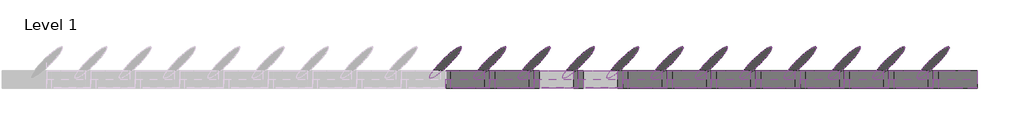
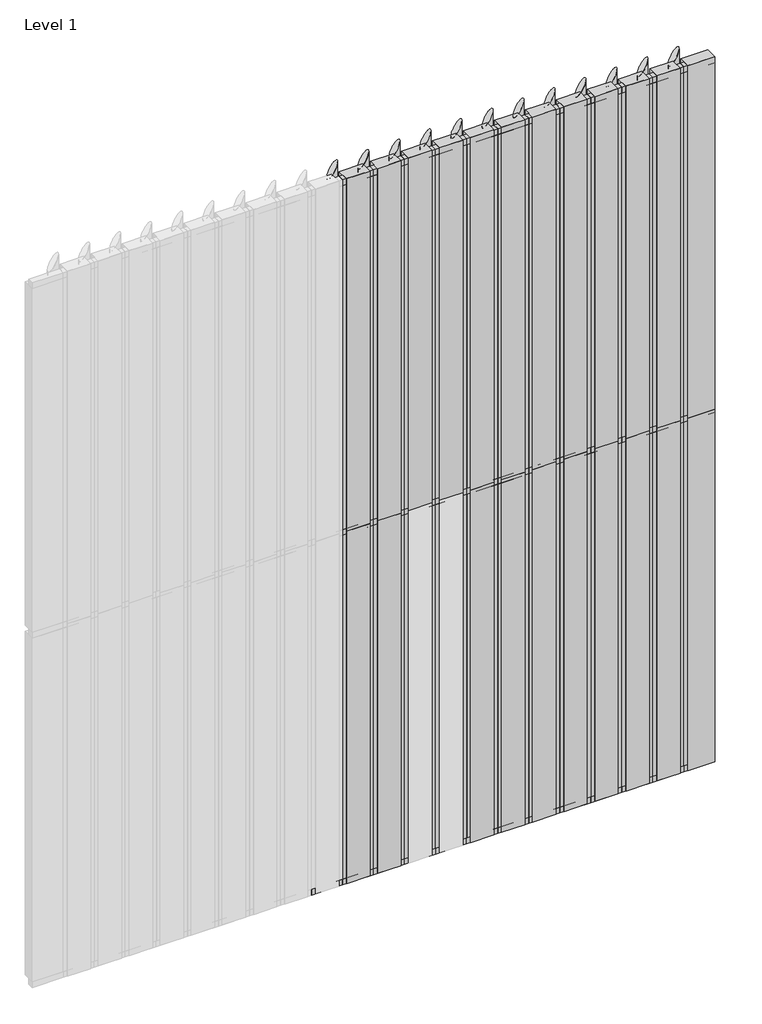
# One storey, part 2 of 2: 61 members, 46 plates.
"""IFC4 building model written with IfcOpenShell, lengths in millimetres."""

from ifc_helpers import new_model, si_unit, origin, place, context, project, spatial, transform, mapped, element, save
from components import rectangular_mullion_dafef153, rectangular_mullion_b779000f, rectangular_mullion_eeaea343, rectangular_mullion_552ac5bc, empty_system_panel_empty_c2e1ed41, empty_system_panel_empty_a27fa234, empty_system_panel_empty_93422e2e

model = new_model("IFC4")

# Units and contexts
model_context = context("Model", 3, world=origin())
ifc_project = project(units=[si_unit("LENGTHUNIT", "METRE", prefix="MILLI")], contexts=[model_context])

# Site, building, storey
site = spatial("IfcSite", under=ifc_project)
building = spatial("IfcBuilding", under=site)
storey = spatial("IfcBuildingStorey", under=building, Name="Level 1", Elevation=0.0)

# Members
placement = place(None, origin())
rectangular_mullion_shape = rectangular_mullion_dafef153(model_context)
element("IfcMember", 1, ObjectType="Rectangular Mullion : RSen_21_CWM_blade - 250 ellips - 45°_gen_duco projects", at=placement, inside=storey, context=model_context, shape_type="MappedRepresentation", body=[
    mapped(rectangular_mullion_shape, transform((5750.0, 3000.0, 0.0), x_axis=(-1.0, 0.0, 0.0), y_axis=(0.0, 1.0, 0.0), z_axis=(0.0, 0.0, -1.0))),
])
element("IfcMember", 2, ObjectType="Rectangular Mullion : RSen_21_CWM_blade - 250 ellips - 45°_gen_duco projects", at=placement, inside=storey, context=model_context, shape_type="MappedRepresentation", body=[
    mapped(rectangular_mullion_shape, transform((5500.0, 3000.0, 0.0), x_axis=(-1.0, 0.0, 0.0), y_axis=(0.0, 1.0, 0.0), z_axis=(0.0, 0.0, -1.0))),
])
element("IfcMember", 3, ObjectType="Rectangular Mullion : RSen_21_CWM_blade - 250 ellips - 45°_gen_duco projects", at=placement, inside=storey, context=model_context, shape_type="MappedRepresentation", body=[
    mapped(rectangular_mullion_shape, transform((5250.0, 3000.0, 0.0), x_axis=(-1.0, 0.0, 0.0), y_axis=(0.0, 1.0, 0.0), z_axis=(0.0, 0.0, -1.0))),
])
element("IfcMember", 4, ObjectType="Rectangular Mullion : RSen_21_CWM_blade - 250 ellips - 45°_gen_duco projects", at=placement, inside=storey, context=model_context, shape_type="MappedRepresentation", body=[
    mapped(rectangular_mullion_shape, transform((5000.0, 3000.0, 0.0), x_axis=(-1.0, 0.0, 0.0), y_axis=(0.0, 1.0, 0.0), z_axis=(0.0, 0.0, -1.0))),
])
element("IfcMember", 5, ObjectType="Rectangular Mullion : RSen_21_CWM_blade - 250 ellips - 45°_gen_duco projects", at=placement, inside=storey, context=model_context, shape_type="MappedRepresentation", body=[
    mapped(rectangular_mullion_shape, transform((4750.0, 3000.0, 0.0), x_axis=(-1.0, 0.0, 0.0), y_axis=(0.0, 1.0, 0.0), z_axis=(0.0, 0.0, -1.0))),
])
element("IfcMember", 6, ObjectType="Rectangular Mullion : RSen_21_CWM_blade - 250 ellips - 45°_gen_duco projects", at=placement, inside=storey, context=model_context, shape_type="MappedRepresentation", body=[
    mapped(rectangular_mullion_shape, transform((4500.0, 3000.0, 0.0), x_axis=(-1.0, 0.0, 0.0), y_axis=(0.0, 1.0, 0.0), z_axis=(0.0, 0.0, -1.0))),
])
element("IfcMember", 7, ObjectType="Rectangular Mullion : RSen_21_CWM_blade - 250 ellips - 45°_gen_duco projects", at=placement, inside=storey, context=model_context, shape_type="MappedRepresentation", body=[
    mapped(rectangular_mullion_shape, transform((4250.0, 3000.0, 0.0), x_axis=(-1.0, 0.0, 0.0), y_axis=(0.0, 1.0, 0.0), z_axis=(0.0, 0.0, -1.0))),
])
element("IfcMember", 8, ObjectType="Rectangular Mullion : RSen_21_CWM_blade - 250 ellips - 45°_gen_duco projects", at=placement, inside=storey, context=model_context, shape_type="MappedRepresentation", body=[
    mapped(rectangular_mullion_shape, transform((4000.0, 3000.0, 0.0), x_axis=(-1.0, 0.0, 0.0), y_axis=(0.0, 1.0, 0.0), z_axis=(0.0, 0.0, -1.0))),
])
element("IfcMember", 9, ObjectType="Rectangular Mullion : RSen_21_CWM_blade - 250 ellips - 45°_gen_duco projects", at=placement, inside=storey, context=model_context, shape_type="MappedRepresentation", body=[
    mapped(rectangular_mullion_shape, transform((3750.0, 3000.0, 0.0), x_axis=(-1.0, 0.0, 0.0), y_axis=(0.0, 1.0, 0.0), z_axis=(0.0, 0.0, -1.0))),
])
element("IfcMember", 10, ObjectType="Rectangular Mullion : RSen_21_CWM_blade - 250 ellips - 45°_gen_duco projects", at=placement, inside=storey, context=model_context, shape_type="MappedRepresentation", body=[
    mapped(rectangular_mullion_shape, transform((3500.0, 3000.0, 0.0), x_axis=(-1.0, 0.0, 0.0), y_axis=(0.0, 1.0, 0.0), z_axis=(0.0, 0.0, -1.0))),
])
element("IfcMember", 11, ObjectType="Rectangular Mullion : RSen_21_CWM_blade - 250 ellips - 45°_gen_duco projects", at=placement, inside=storey, context=model_context, shape_type="MappedRepresentation", body=[
    mapped(rectangular_mullion_shape, transform((3250.0, 3000.0, 0.0), x_axis=(-1.0, 0.0, 0.0), y_axis=(0.0, 1.0, 0.0), z_axis=(0.0, 0.0, -1.0))),
])
element("IfcMember", 12, ObjectType="Rectangular Mullion : RSen_21_CWM_blade - 250 ellips - 45°_gen_duco projects", at=placement, inside=storey, context=model_context, shape_type="MappedRepresentation", body=[
    mapped(rectangular_mullion_shape, transform((3000.0, 3000.0, 0.0), x_axis=(-1.0, 0.0, 0.0), y_axis=(0.0, 1.0, 0.0), z_axis=(0.0, 0.0, -1.0))),
])
element("IfcMember", 13, ObjectType="Rectangular Mullion : RSen_21_CWM_blade - 250 ellips - 45°_gen_duco projects", at=placement, inside=storey, context=model_context, shape_type="MappedRepresentation", body=[
    mapped(rectangular_mullion_shape, transform((5750.0, 3000.0, 3000.0), x_axis=(-1.0, 0.0, 0.0), y_axis=(0.0, 1.0, 0.0), z_axis=(0.0, 0.0, -1.0))),
])
element("IfcMember", 14, ObjectType="Rectangular Mullion : RSen_21_CWM_blade - 250 ellips - 45°_gen_duco projects", at=placement, inside=storey, context=model_context, shape_type="MappedRepresentation", body=[
    mapped(rectangular_mullion_shape, transform((5500.0, 3000.0, 3000.0), x_axis=(-1.0, 0.0, 0.0), y_axis=(0.0, 1.0, 0.0), z_axis=(0.0, 0.0, -1.0))),
])
element("IfcMember", 15, ObjectType="Rectangular Mullion : RSen_21_CWM_blade - 250 ellips - 45°_gen_duco projects", at=placement, inside=storey, context=model_context, shape_type="MappedRepresentation", body=[
    mapped(rectangular_mullion_shape, transform((5250.0, 3000.0, 3000.0), x_axis=(-1.0, 0.0, 0.0), y_axis=(0.0, 1.0, 0.0), z_axis=(0.0, 0.0, -1.0))),
])
element("IfcMember", 16, ObjectType="Rectangular Mullion : RSen_21_CWM_blade - 250 ellips - 45°_gen_duco projects", at=placement, inside=storey, context=model_context, shape_type="MappedRepresentation", body=[
    mapped(rectangular_mullion_shape, transform((5000.0, 3000.0, 3000.0), x_axis=(-1.0, 0.0, 0.0), y_axis=(0.0, 1.0, 0.0), z_axis=(0.0, 0.0, -1.0))),
])
element("IfcMember", 17, ObjectType="Rectangular Mullion : RSen_21_CWM_blade - 250 ellips - 45°_gen_duco projects", at=placement, inside=storey, context=model_context, shape_type="MappedRepresentation", body=[
    mapped(rectangular_mullion_shape, transform((4750.0, 3000.0, 3000.0), x_axis=(-1.0, 0.0, 0.0), y_axis=(0.0, 1.0, 0.0), z_axis=(0.0, 0.0, -1.0))),
])
element("IfcMember", 18, ObjectType="Rectangular Mullion : RSen_21_CWM_blade - 250 ellips - 45°_gen_duco projects", at=placement, inside=storey, context=model_context, shape_type="MappedRepresentation", body=[
    mapped(rectangular_mullion_shape, transform((4500.0, 3000.0, 3000.0), x_axis=(-1.0, 0.0, 0.0), y_axis=(0.0, 1.0, 0.0), z_axis=(0.0, 0.0, -1.0))),
])
element("IfcMember", 19, ObjectType="Rectangular Mullion : RSen_21_CWM_blade - 250 ellips - 45°_gen_duco projects", at=placement, inside=storey, context=model_context, shape_type="MappedRepresentation", body=[
    mapped(rectangular_mullion_shape, transform((4250.0, 3000.0, 3000.0), x_axis=(-1.0, 0.0, 0.0), y_axis=(0.0, 1.0, 0.0), z_axis=(0.0, 0.0, -1.0))),
])
element("IfcMember", 20, ObjectType="Rectangular Mullion : RSen_21_CWM_blade - 250 ellips - 45°_gen_duco projects", at=placement, inside=storey, context=model_context, shape_type="MappedRepresentation", body=[
    mapped(rectangular_mullion_shape, transform((4000.0, 3000.0, 3000.0), x_axis=(-1.0, 0.0, 0.0), y_axis=(0.0, 1.0, 0.0), z_axis=(0.0, 0.0, -1.0))),
])
element("IfcMember", 21, ObjectType="Rectangular Mullion : RSen_21_CWM_blade - 250 ellips - 45°_gen_duco projects", at=placement, inside=storey, context=model_context, shape_type="MappedRepresentation", body=[
    mapped(rectangular_mullion_shape, transform((3750.0, 3000.0, 3000.0), x_axis=(-1.0, 0.0, 0.0), y_axis=(0.0, 1.0, 0.0), z_axis=(0.0, 0.0, -1.0))),
])
element("IfcMember", 22, ObjectType="Rectangular Mullion : RSen_21_CWM_blade - 250 ellips - 45°_gen_duco projects", at=placement, inside=storey, context=model_context, shape_type="MappedRepresentation", body=[
    mapped(rectangular_mullion_shape, transform((3500.0, 3000.0, 3000.0), x_axis=(-1.0, 0.0, 0.0), y_axis=(0.0, 1.0, 0.0), z_axis=(0.0, 0.0, -1.0))),
])
element("IfcMember", 23, ObjectType="Rectangular Mullion : RSen_21_CWM_blade - 250 ellips - 45°_gen_duco projects", at=placement, inside=storey, context=model_context, shape_type="MappedRepresentation", body=[
    mapped(rectangular_mullion_shape, transform((3250.0, 3000.0, 3000.0), x_axis=(-1.0, 0.0, 0.0), y_axis=(0.0, 1.0, 0.0), z_axis=(0.0, 0.0, -1.0))),
])
element("IfcMember", 24, ObjectType="Rectangular Mullion : RSen_21_CWM_blade - 250 ellips - 45°_gen_duco projects", at=placement, inside=storey, context=model_context, shape_type="MappedRepresentation", body=[
    mapped(rectangular_mullion_shape, transform((3000.0, 3000.0, 3000.0), x_axis=(-1.0, 0.0, 0.0), y_axis=(0.0, 1.0, 0.0), z_axis=(0.0, 0.0, -1.0))),
])
rectangular_mullion_2_shape = rectangular_mullion_b779000f(model_context)
element("IfcMember", 25, ObjectType="Rectangular Mullion : RSen_21_CWM_support profile 50x50 - right_gen_duco projects", at=placement, inside=storey, context=model_context, shape_type="MappedRepresentation", body=[
    mapped(rectangular_mullion_2_shape, transform((6000.0, 3000.0, 0.0), x_axis=(0.0, 0.0, -1.0), y_axis=(0.0, 1.0, 0.0), z_axis=(1.0, 0.0, 0.0))),
])
rectangular_mullion_3_shape = rectangular_mullion_eeaea343(model_context)
element("IfcMember", 26, ObjectType="Rectangular Mullion : RSen_21_CWM_support profile 50x50 - left_gen_duco projects", at=placement, inside=storey, context=model_context, shape_type="MappedRepresentation", body=[
    mapped(rectangular_mullion_3_shape, transform((5750.0, 3000.0, 6000.0), x_axis=(0.0, 0.0, 1.0), y_axis=(0.0, 1.0, 0.0), z_axis=(-1.0, 0.0, 0.0))),
])
element("IfcMember", 27, ObjectType="Rectangular Mullion : RSen_21_CWM_support profile 50x50 - left_gen_duco projects", at=placement, inside=storey, context=model_context, shape_type="MappedRepresentation", body=[
    mapped(rectangular_mullion_3_shape, transform((5500.0, 3000.0, 6000.0), x_axis=(0.0, 0.0, 1.0), y_axis=(0.0, 1.0, 0.0), z_axis=(-1.0, 0.0, 0.0))),
])
element("IfcMember", 28, ObjectType="Rectangular Mullion : RSen_21_CWM_support profile 50x50 - left_gen_duco projects", at=placement, inside=storey, context=model_context, shape_type="MappedRepresentation", body=[
    mapped(rectangular_mullion_3_shape, transform((5250.0, 3000.0, 6000.0), x_axis=(0.0, 0.0, 1.0), y_axis=(0.0, 1.0, 0.0), z_axis=(-1.0, 0.0, 0.0))),
])
element("IfcMember", 29, ObjectType="Rectangular Mullion : RSen_21_CWM_support profile 50x50 - left_gen_duco projects", at=placement, inside=storey, context=model_context, shape_type="MappedRepresentation", body=[
    mapped(rectangular_mullion_3_shape, transform((5000.0, 3000.0, 6000.0), x_axis=(0.0, 0.0, 1.0), y_axis=(0.0, 1.0, 0.0), z_axis=(-1.0, 0.0, 0.0))),
])
element("IfcMember", 30, ObjectType="Rectangular Mullion : RSen_21_CWM_support profile 50x50 - left_gen_duco projects", at=placement, inside=storey, context=model_context, shape_type="MappedRepresentation", body=[
    mapped(rectangular_mullion_3_shape, transform((4750.0, 3000.0, 6000.0), x_axis=(0.0, 0.0, 1.0), y_axis=(0.0, 1.0, 0.0), z_axis=(-1.0, 0.0, 0.0))),
])
element("IfcMember", 31, ObjectType="Rectangular Mullion : RSen_21_CWM_support profile 50x50 - left_gen_duco projects", at=placement, inside=storey, context=model_context, shape_type="MappedRepresentation", body=[
    mapped(rectangular_mullion_3_shape, transform((4500.0, 3000.0, 6000.0), x_axis=(0.0, 0.0, 1.0), y_axis=(0.0, 1.0, 0.0), z_axis=(-1.0, 0.0, 0.0))),
])
element("IfcMember", 32, ObjectType="Rectangular Mullion : RSen_21_CWM_support profile 50x50 - left_gen_duco projects", at=placement, inside=storey, context=model_context, shape_type="MappedRepresentation", body=[
    mapped(rectangular_mullion_3_shape, transform((4250.0, 3000.0, 6000.0), x_axis=(0.0, 0.0, 1.0), y_axis=(0.0, 1.0, 0.0), z_axis=(-1.0, 0.0, 0.0))),
])
element("IfcMember", 33, ObjectType="Rectangular Mullion : RSen_21_CWM_support profile 50x50 - left_gen_duco projects", at=placement, inside=storey, context=model_context, shape_type="MappedRepresentation", body=[
    mapped(rectangular_mullion_3_shape, transform((4000.0, 3000.0, 6000.0), x_axis=(0.0, 0.0, 1.0), y_axis=(0.0, 1.0, 0.0), z_axis=(-1.0, 0.0, 0.0))),
])
element("IfcMember", 34, ObjectType="Rectangular Mullion : RSen_21_CWM_support profile 50x50 - left_gen_duco projects", at=placement, inside=storey, context=model_context, shape_type="MappedRepresentation", body=[
    mapped(rectangular_mullion_3_shape, transform((3750.0, 3000.0, 6000.0), x_axis=(0.0, 0.0, 1.0), y_axis=(0.0, 1.0, 0.0), z_axis=(-1.0, 0.0, 0.0))),
])
element("IfcMember", 35, ObjectType="Rectangular Mullion : RSen_21_CWM_support profile 50x50 - left_gen_duco projects", at=placement, inside=storey, context=model_context, shape_type="MappedRepresentation", body=[
    mapped(rectangular_mullion_3_shape, transform((3500.0, 3000.0, 6000.0), x_axis=(0.0, 0.0, 1.0), y_axis=(0.0, 1.0, 0.0), z_axis=(-1.0, 0.0, 0.0))),
])
element("IfcMember", 36, ObjectType="Rectangular Mullion : RSen_21_CWM_support profile 50x50 - left_gen_duco projects", at=placement, inside=storey, context=model_context, shape_type="MappedRepresentation", body=[
    mapped(rectangular_mullion_3_shape, transform((3250.0, 3000.0, 6000.0), x_axis=(0.0, 0.0, 1.0), y_axis=(0.0, 1.0, 0.0), z_axis=(-1.0, 0.0, 0.0))),
])
element("IfcMember", 37, ObjectType="Rectangular Mullion : RSen_21_CWM_support profile 50x50 - left_gen_duco projects", at=placement, inside=storey, context=model_context, shape_type="MappedRepresentation", body=[
    mapped(rectangular_mullion_3_shape, transform((3000.0, 3000.0, 6000.0), x_axis=(0.0, 0.0, 1.0), y_axis=(0.0, 1.0, 0.0), z_axis=(-1.0, 0.0, 0.0))),
])
element("IfcMember", 38, ObjectType="Rectangular Mullion : RSen_21_CWM_support profile 50x50 - right_gen_duco projects", at=placement, inside=storey, context=model_context, shape_type="MappedRepresentation", body=[
    mapped(rectangular_mullion_2_shape, transform((5750.0, 3000.0, 0.0), x_axis=(0.0, 0.0, -1.0), y_axis=(0.0, 1.0, 0.0), z_axis=(1.0, 0.0, 0.0))),
])
element("IfcMember", 39, ObjectType="Rectangular Mullion : RSen_21_CWM_support profile 50x50 - right_gen_duco projects", at=placement, inside=storey, context=model_context, shape_type="MappedRepresentation", body=[
    mapped(rectangular_mullion_2_shape, transform((5500.0, 3000.0, 0.0), x_axis=(0.0, 0.0, -1.0), y_axis=(0.0, 1.0, 0.0), z_axis=(1.0, 0.0, 0.0))),
])
element("IfcMember", 40, ObjectType="Rectangular Mullion : RSen_21_CWM_support profile 50x50 - right_gen_duco projects", at=placement, inside=storey, context=model_context, shape_type="MappedRepresentation", body=[
    mapped(rectangular_mullion_2_shape, transform((5250.0, 3000.0, 0.0), x_axis=(0.0, 0.0, -1.0), y_axis=(0.0, 1.0, 0.0), z_axis=(1.0, 0.0, 0.0))),
])
element("IfcMember", 41, ObjectType="Rectangular Mullion : RSen_21_CWM_support profile 50x50 - right_gen_duco projects", at=placement, inside=storey, context=model_context, shape_type="MappedRepresentation", body=[
    mapped(rectangular_mullion_2_shape, transform((5000.0, 3000.0, 0.0), x_axis=(0.0, 0.0, -1.0), y_axis=(0.0, 1.0, 0.0), z_axis=(1.0, 0.0, 0.0))),
])
element("IfcMember", 42, ObjectType="Rectangular Mullion : RSen_21_CWM_support profile 50x50 - right_gen_duco projects", at=placement, inside=storey, context=model_context, shape_type="MappedRepresentation", body=[
    mapped(rectangular_mullion_2_shape, transform((4750.0, 3000.0, 0.0), x_axis=(0.0, 0.0, -1.0), y_axis=(0.0, 1.0, 0.0), z_axis=(1.0, 0.0, 0.0))),
])
element("IfcMember", 43, ObjectType="Rectangular Mullion : RSen_21_CWM_support profile 50x50 - right_gen_duco projects", at=placement, inside=storey, context=model_context, shape_type="MappedRepresentation", body=[
    mapped(rectangular_mullion_2_shape, transform((4500.0, 3000.0, 0.0), x_axis=(0.0, 0.0, -1.0), y_axis=(0.0, 1.0, 0.0), z_axis=(1.0, 0.0, 0.0))),
])
element("IfcMember", 44, ObjectType="Rectangular Mullion : RSen_21_CWM_support profile 50x50 - right_gen_duco projects", at=placement, inside=storey, context=model_context, shape_type="MappedRepresentation", body=[
    mapped(rectangular_mullion_2_shape, transform((4250.0, 3000.0, 0.0), x_axis=(0.0, 0.0, -1.0), y_axis=(0.0, 1.0, 0.0), z_axis=(1.0, 0.0, 0.0))),
])
element("IfcMember", 45, ObjectType="Rectangular Mullion : RSen_21_CWM_support profile 50x50 - right_gen_duco projects", at=placement, inside=storey, context=model_context, shape_type="MappedRepresentation", body=[
    mapped(rectangular_mullion_2_shape, transform((4000.0, 3000.0, 0.0), x_axis=(0.0, 0.0, -1.0), y_axis=(0.0, 1.0, 0.0), z_axis=(1.0, 0.0, 0.0))),
])
element("IfcMember", 46, ObjectType="Rectangular Mullion : RSen_21_CWM_support profile 50x50 - right_gen_duco projects", at=placement, inside=storey, context=model_context, shape_type="MappedRepresentation", body=[
    mapped(rectangular_mullion_2_shape, transform((3750.0, 3000.0, 0.0), x_axis=(0.0, 0.0, -1.0), y_axis=(0.0, 1.0, 0.0), z_axis=(1.0, 0.0, 0.0))),
])
element("IfcMember", 47, ObjectType="Rectangular Mullion : RSen_21_CWM_support profile 50x50 - right_gen_duco projects", at=placement, inside=storey, context=model_context, shape_type="MappedRepresentation", body=[
    mapped(rectangular_mullion_2_shape, transform((3500.0, 3000.0, 0.0), x_axis=(0.0, 0.0, -1.0), y_axis=(0.0, 1.0, 0.0), z_axis=(1.0, 0.0, 0.0))),
])
element("IfcMember", 48, ObjectType="Rectangular Mullion : RSen_21_CWM_support profile 50x50 - right_gen_duco projects", at=placement, inside=storey, context=model_context, shape_type="MappedRepresentation", body=[
    mapped(rectangular_mullion_2_shape, transform((3250.0, 3000.0, 0.0), x_axis=(0.0, 0.0, -1.0), y_axis=(0.0, 1.0, 0.0), z_axis=(1.0, 0.0, 0.0))),
])
element("IfcMember", 49, ObjectType="Rectangular Mullion : RSen_21_CWM_support profile 50x50 - right_gen_duco projects", at=placement, inside=storey, context=model_context, shape_type="MappedRepresentation", body=[
    mapped(rectangular_mullion_2_shape, transform((3000.0, 3000.0, 0.0), x_axis=(0.0, 0.0, -1.0), y_axis=(0.0, 1.0, 0.0), z_axis=(1.0, 0.0, 0.0))),
])
rectangular_mullion_4_shape = rectangular_mullion_552ac5bc(model_context)
element("IfcMember", 50, ObjectType="Rectangular Mullion : RSen_21_CWM_support profile 50x50_gen_duco projects", at=placement, inside=storey, context=model_context, shape_type="MappedRepresentation", body=[
    mapped(rectangular_mullion_4_shape, transform((5750.0, 3000.0, 3000.0), x_axis=(0.0, 0.0, 1.0), y_axis=(0.0, 1.0, 0.0), z_axis=(-1.0, 0.0, 0.0))),
])
element("IfcMember", 51, ObjectType="Rectangular Mullion : RSen_21_CWM_support profile 50x50_gen_duco projects", at=placement, inside=storey, context=model_context, shape_type="MappedRepresentation", body=[
    mapped(rectangular_mullion_4_shape, transform((5500.0, 3000.0, 3000.0), x_axis=(0.0, 0.0, 1.0), y_axis=(0.0, 1.0, 0.0), z_axis=(-1.0, 0.0, 0.0))),
])
element("IfcMember", 52, ObjectType="Rectangular Mullion : RSen_21_CWM_support profile 50x50_gen_duco projects", at=placement, inside=storey, context=model_context, shape_type="MappedRepresentation", body=[
    mapped(rectangular_mullion_4_shape, transform((5250.0, 3000.0, 3000.0), x_axis=(0.0, 0.0, 1.0), y_axis=(0.0, 1.0, 0.0), z_axis=(-1.0, 0.0, 0.0))),
])
element("IfcMember", 53, ObjectType="Rectangular Mullion : RSen_21_CWM_support profile 50x50_gen_duco projects", at=placement, inside=storey, context=model_context, shape_type="MappedRepresentation", body=[
    mapped(rectangular_mullion_4_shape, transform((5000.0, 3000.0, 3000.0), x_axis=(0.0, 0.0, 1.0), y_axis=(0.0, 1.0, 0.0), z_axis=(-1.0, 0.0, 0.0))),
])
element("IfcMember", 54, ObjectType="Rectangular Mullion : RSen_21_CWM_support profile 50x50_gen_duco projects", at=placement, inside=storey, context=model_context, shape_type="MappedRepresentation", body=[
    mapped(rectangular_mullion_4_shape, transform((4750.0, 3000.0, 3000.0), x_axis=(0.0, 0.0, 1.0), y_axis=(0.0, 1.0, 0.0), z_axis=(-1.0, 0.0, 0.0))),
])
element("IfcMember", 55, ObjectType="Rectangular Mullion : RSen_21_CWM_support profile 50x50_gen_duco projects", at=placement, inside=storey, context=model_context, shape_type="MappedRepresentation", body=[
    mapped(rectangular_mullion_4_shape, transform((4500.0, 3000.0, 3000.0), x_axis=(0.0, 0.0, 1.0), y_axis=(0.0, 1.0, 0.0), z_axis=(-1.0, 0.0, 0.0))),
])
element("IfcMember", 56, ObjectType="Rectangular Mullion : RSen_21_CWM_support profile 50x50_gen_duco projects", at=placement, inside=storey, context=model_context, shape_type="MappedRepresentation", body=[
    mapped(rectangular_mullion_4_shape, transform((4250.0, 3000.0, 3000.0), x_axis=(0.0, 0.0, 1.0), y_axis=(0.0, 1.0, 0.0), z_axis=(-1.0, 0.0, 0.0))),
])
element("IfcMember", 57, ObjectType="Rectangular Mullion : RSen_21_CWM_support profile 50x50_gen_duco projects", at=placement, inside=storey, context=model_context, shape_type="MappedRepresentation", body=[
    mapped(rectangular_mullion_4_shape, transform((4000.0, 3000.0, 3000.0), x_axis=(0.0, 0.0, 1.0), y_axis=(0.0, 1.0, 0.0), z_axis=(-1.0, 0.0, 0.0))),
])
element("IfcMember", 58, ObjectType="Rectangular Mullion : RSen_21_CWM_support profile 50x50_gen_duco projects", at=placement, inside=storey, context=model_context, shape_type="MappedRepresentation", body=[
    mapped(rectangular_mullion_4_shape, transform((3750.0, 3000.0, 3000.0), x_axis=(0.0, 0.0, 1.0), y_axis=(0.0, 1.0, 0.0), z_axis=(-1.0, 0.0, 0.0))),
])
element("IfcMember", 59, ObjectType="Rectangular Mullion : RSen_21_CWM_support profile 50x50_gen_duco projects", at=placement, inside=storey, context=model_context, shape_type="MappedRepresentation", body=[
    mapped(rectangular_mullion_4_shape, transform((3500.0, 3000.0, 3000.0), x_axis=(0.0, 0.0, 1.0), y_axis=(0.0, 1.0, 0.0), z_axis=(-1.0, 0.0, 0.0))),
])
element("IfcMember", 60, ObjectType="Rectangular Mullion : RSen_21_CWM_support profile 50x50_gen_duco projects", at=placement, inside=storey, context=model_context, shape_type="MappedRepresentation", body=[
    mapped(rectangular_mullion_4_shape, transform((3250.0, 3000.0, 3000.0), x_axis=(0.0, 0.0, 1.0), y_axis=(0.0, 1.0, 0.0), z_axis=(-1.0, 0.0, 0.0))),
])
element("IfcMember", 61, ObjectType="Rectangular Mullion : RSen_21_CWM_support profile 50x50_gen_duco projects", at=placement, inside=storey, context=model_context, shape_type="MappedRepresentation", body=[
    mapped(rectangular_mullion_4_shape, transform((3000.0, 3000.0, 3000.0), x_axis=(0.0, 0.0, 1.0), y_axis=(0.0, 1.0, 0.0), z_axis=(-1.0, 0.0, 0.0))),
])

# Plates
empty_system_panel_empty_shape = empty_system_panel_empty_c2e1ed41(model_context)
element("IfcPlate", 62, ObjectType="Empty System Panel : Empty", at=placement, inside=storey, context=model_context, shape_type="MappedRepresentation", body=[
    mapped(empty_system_panel_empty_shape, transform((5890.3795725, 3000.0, 0.0), x_axis=(-1.0, 0.0, 0.0), y_axis=(0.0, -1.0, 0.0), z_axis=(0.0, 0.0, 1.0))),
])
element("IfcPlate", 63, ObjectType="Empty System Panel : Empty", at=placement, inside=storey, context=model_context, shape_type="MappedRepresentation", body=[
    mapped(empty_system_panel_empty_shape, transform((5890.3795725, 3000.0, 3000.0), x_axis=(-1.0, 0.0, 0.0), y_axis=(0.0, -1.0, 0.0), z_axis=(0.0, 0.0, 1.0))),
])
empty_system_panel_empty_2_shape = empty_system_panel_empty_a27fa234(model_context)
element("IfcPlate", 64, ObjectType="Empty System Panel : Empty", at=placement, inside=storey, context=model_context, shape_type="MappedRepresentation", body=[
    mapped(empty_system_panel_empty_2_shape, transform((5625.0, 3000.0, 0.0), x_axis=(-1.0, 0.0, 0.0), y_axis=(0.0, -1.0, 0.0), z_axis=(0.0, 0.0, 1.0))),
])
element("IfcPlate", 65, ObjectType="Empty System Panel : Empty", at=placement, inside=storey, context=model_context, shape_type="MappedRepresentation", body=[
    mapped(empty_system_panel_empty_2_shape, transform((5375.0, 3000.0, 0.0), x_axis=(-1.0, 0.0, 0.0), y_axis=(0.0, -1.0, 0.0), z_axis=(0.0, 0.0, 1.0))),
])
element("IfcPlate", 66, ObjectType="Empty System Panel : Empty", at=placement, inside=storey, context=model_context, shape_type="MappedRepresentation", body=[
    mapped(empty_system_panel_empty_2_shape, transform((5125.0, 3000.0, 0.0), x_axis=(-1.0, 0.0, 0.0), y_axis=(0.0, -1.0, 0.0), z_axis=(0.0, 0.0, 1.0))),
])
element("IfcPlate", 67, ObjectType="Empty System Panel : Empty", at=placement, inside=storey, context=model_context, shape_type="MappedRepresentation", body=[
    mapped(empty_system_panel_empty_2_shape, transform((4875.0, 3000.0, 0.0), x_axis=(-1.0, 0.0, 0.0), y_axis=(0.0, -1.0, 0.0), z_axis=(0.0, 0.0, 1.0))),
])
element("IfcPlate", 68, ObjectType="Empty System Panel : Empty", at=placement, inside=storey, context=model_context, shape_type="MappedRepresentation", body=[
    mapped(empty_system_panel_empty_2_shape, transform((4625.0, 3000.0, 0.0), x_axis=(-1.0, 0.0, 0.0), y_axis=(0.0, -1.0, 0.0), z_axis=(0.0, 0.0, 1.0))),
])
element("IfcPlate", 69, ObjectType="Empty System Panel : Empty", at=placement, inside=storey, context=model_context, shape_type="MappedRepresentation", body=[
    mapped(empty_system_panel_empty_2_shape, transform((4375.0, 3000.0, 0.0), x_axis=(-1.0, 0.0, 0.0), y_axis=(0.0, -1.0, 0.0), z_axis=(0.0, 0.0, 1.0))),
])
element("IfcPlate", 70, ObjectType="Empty System Panel : Empty", at=placement, inside=storey, context=model_context, shape_type="MappedRepresentation", body=[
    mapped(empty_system_panel_empty_2_shape, transform((4125.0, 3000.0, 0.0), x_axis=(-1.0, 0.0, 0.0), y_axis=(0.0, -1.0, 0.0), z_axis=(0.0, 0.0, 1.0))),
])
element("IfcPlate", 71, ObjectType="Empty System Panel : Empty", at=placement, inside=storey, context=model_context, shape_type="MappedRepresentation", body=[
    mapped(empty_system_panel_empty_2_shape, transform((3375.0, 3000.0, 0.0), x_axis=(-1.0, 0.0, 0.0), y_axis=(0.0, -1.0, 0.0), z_axis=(0.0, 0.0, 1.0))),
])
element("IfcPlate", 72, ObjectType="Empty System Panel : Empty", at=placement, inside=storey, context=model_context, shape_type="MappedRepresentation", body=[
    mapped(empty_system_panel_empty_2_shape, transform((3125.0, 3000.0, 0.0), x_axis=(-1.0, 0.0, 0.0), y_axis=(0.0, -1.0, 0.0), z_axis=(0.0, 0.0, 1.0))),
])
element("IfcPlate", 73, ObjectType="Empty System Panel : Empty", at=placement, inside=storey, context=model_context, shape_type="MappedRepresentation", body=[
    mapped(empty_system_panel_empty_2_shape, transform((5625.0, 3000.0, 3000.0), x_axis=(-1.0, 0.0, 0.0), y_axis=(0.0, -1.0, 0.0), z_axis=(0.0, 0.0, 1.0))),
])
element("IfcPlate", 74, ObjectType="Empty System Panel : Empty", at=placement, inside=storey, context=model_context, shape_type="MappedRepresentation", body=[
    mapped(empty_system_panel_empty_2_shape, transform((5375.0, 3000.0, 3000.0), x_axis=(-1.0, 0.0, 0.0), y_axis=(0.0, -1.0, 0.0), z_axis=(0.0, 0.0, 1.0))),
])
element("IfcPlate", 75, ObjectType="Empty System Panel : Empty", at=placement, inside=storey, context=model_context, shape_type="MappedRepresentation", body=[
    mapped(empty_system_panel_empty_2_shape, transform((5125.0, 3000.0, 3000.0), x_axis=(-1.0, 0.0, 0.0), y_axis=(0.0, -1.0, 0.0), z_axis=(0.0, 0.0, 1.0))),
])
element("IfcPlate", 76, ObjectType="Empty System Panel : Empty", at=placement, inside=storey, context=model_context, shape_type="MappedRepresentation", body=[
    mapped(empty_system_panel_empty_2_shape, transform((4875.0, 3000.0, 3000.0), x_axis=(-1.0, 0.0, 0.0), y_axis=(0.0, -1.0, 0.0), z_axis=(0.0, 0.0, 1.0))),
])
element("IfcPlate", 77, ObjectType="Empty System Panel : Empty", at=placement, inside=storey, context=model_context, shape_type="MappedRepresentation", body=[
    mapped(empty_system_panel_empty_2_shape, transform((4625.0, 3000.0, 3000.0), x_axis=(-1.0, 0.0, 0.0), y_axis=(0.0, -1.0, 0.0), z_axis=(0.0, 0.0, 1.0))),
])
element("IfcPlate", 78, ObjectType="Empty System Panel : Empty", at=placement, inside=storey, context=model_context, shape_type="MappedRepresentation", body=[
    mapped(empty_system_panel_empty_2_shape, transform((4375.0, 3000.0, 3000.0), x_axis=(-1.0, 0.0, 0.0), y_axis=(0.0, -1.0, 0.0), z_axis=(0.0, 0.0, 1.0))),
])
element("IfcPlate", 79, ObjectType="Empty System Panel : Empty", at=placement, inside=storey, context=model_context, shape_type="MappedRepresentation", body=[
    mapped(empty_system_panel_empty_2_shape, transform((4125.0, 3000.0, 3000.0), x_axis=(-1.0, 0.0, 0.0), y_axis=(0.0, -1.0, 0.0), z_axis=(0.0, 0.0, 1.0))),
])
element("IfcPlate", 80, ObjectType="Empty System Panel : Empty", at=placement, inside=storey, context=model_context, shape_type="MappedRepresentation", body=[
    mapped(empty_system_panel_empty_2_shape, transform((3875.0, 3000.0, 3000.0), x_axis=(-1.0, 0.0, 0.0), y_axis=(0.0, -1.0, 0.0), z_axis=(0.0, 0.0, 1.0))),
])
element("IfcPlate", 81, ObjectType="Empty System Panel : Empty", at=placement, inside=storey, context=model_context, shape_type="MappedRepresentation", body=[
    mapped(empty_system_panel_empty_2_shape, transform((3625.0, 3000.0, 3000.0), x_axis=(-1.0, 0.0, 0.0), y_axis=(0.0, -1.0, 0.0), z_axis=(0.0, 0.0, 1.0))),
])
element("IfcPlate", 82, ObjectType="Empty System Panel : Empty", at=placement, inside=storey, context=model_context, shape_type="MappedRepresentation", body=[
    mapped(empty_system_panel_empty_2_shape, transform((3375.0, 3000.0, 3000.0), x_axis=(-1.0, 0.0, 0.0), y_axis=(0.0, -1.0, 0.0), z_axis=(0.0, 0.0, 1.0))),
])
element("IfcPlate", 83, ObjectType="Empty System Panel : Empty", at=placement, inside=storey, context=model_context, shape_type="MappedRepresentation", body=[
    mapped(empty_system_panel_empty_2_shape, transform((3125.0, 3000.0, 3000.0), x_axis=(-1.0, 0.0, 0.0), y_axis=(0.0, -1.0, 0.0), z_axis=(0.0, 0.0, 1.0))),
])
empty_system_panel_empty_3_shape = empty_system_panel_empty_93422e2e(model_context)
element("IfcPlate", 84, ObjectType="Empty System Panel : Empty", at=placement, inside=storey, context=model_context, shape_type="MappedRepresentation", body=[
    mapped(empty_system_panel_empty_3_shape, transform((5875.0, 3000.0, 50.0), x_axis=(-1.0, 0.0, 0.0), y_axis=(0.0, -1.0, 0.0), z_axis=(0.0, 0.0, 1.0))),
])
element("IfcPlate", 85, ObjectType="Empty System Panel : Empty", at=placement, inside=storey, context=model_context, shape_type="MappedRepresentation", body=[
    mapped(empty_system_panel_empty_3_shape, transform((5625.0, 3000.0, 50.0), x_axis=(-1.0, 0.0, 0.0), y_axis=(0.0, -1.0, 0.0), z_axis=(0.0, 0.0, 1.0))),
])
element("IfcPlate", 86, ObjectType="Empty System Panel : Empty", at=placement, inside=storey, context=model_context, shape_type="MappedRepresentation", body=[
    mapped(empty_system_panel_empty_3_shape, transform((5375.0, 3000.0, 50.0), x_axis=(-1.0, 0.0, 0.0), y_axis=(0.0, -1.0, 0.0), z_axis=(0.0, 0.0, 1.0))),
])
element("IfcPlate", 87, ObjectType="Empty System Panel : Empty", at=placement, inside=storey, context=model_context, shape_type="MappedRepresentation", body=[
    mapped(empty_system_panel_empty_3_shape, transform((5125.0, 3000.0, 50.0), x_axis=(-1.0, 0.0, 0.0), y_axis=(0.0, -1.0, 0.0), z_axis=(0.0, 0.0, 1.0))),
])
element("IfcPlate", 88, ObjectType="Empty System Panel : Empty", at=placement, inside=storey, context=model_context, shape_type="MappedRepresentation", body=[
    mapped(empty_system_panel_empty_3_shape, transform((4875.0, 3000.0, 50.0), x_axis=(-1.0, 0.0, 0.0), y_axis=(0.0, -1.0, 0.0), z_axis=(0.0, 0.0, 1.0))),
])
element("IfcPlate", 89, ObjectType="Empty System Panel : Empty", at=placement, inside=storey, context=model_context, shape_type="MappedRepresentation", body=[
    mapped(empty_system_panel_empty_3_shape, transform((4625.0, 3000.0, 50.0), x_axis=(-1.0, 0.0, 0.0), y_axis=(0.0, -1.0, 0.0), z_axis=(0.0, 0.0, 1.0))),
])
element("IfcPlate", 90, ObjectType="Empty System Panel : Empty", at=placement, inside=storey, context=model_context, shape_type="MappedRepresentation", body=[
    mapped(empty_system_panel_empty_3_shape, transform((4375.0, 3000.0, 50.0), x_axis=(-1.0, 0.0, 0.0), y_axis=(0.0, -1.0, 0.0), z_axis=(0.0, 0.0, 1.0))),
])
element("IfcPlate", 91, ObjectType="Empty System Panel : Empty", at=placement, inside=storey, context=model_context, shape_type="MappedRepresentation", body=[
    mapped(empty_system_panel_empty_3_shape, transform((4125.0, 3000.0, 50.0), x_axis=(-1.0, 0.0, 0.0), y_axis=(0.0, -1.0, 0.0), z_axis=(0.0, 0.0, 1.0))),
])
element("IfcPlate", 92, ObjectType="Empty System Panel : Empty", at=placement, inside=storey, context=model_context, shape_type="MappedRepresentation", body=[
    mapped(empty_system_panel_empty_3_shape, transform((3875.0, 3000.0, 50.0), x_axis=(-1.0, 0.0, 0.0), y_axis=(0.0, -1.0, 0.0), z_axis=(0.0, 0.0, 1.0))),
])
element("IfcPlate", 93, ObjectType="Empty System Panel : Empty", at=placement, inside=storey, context=model_context, shape_type="MappedRepresentation", body=[
    mapped(empty_system_panel_empty_3_shape, transform((3625.0, 3000.0, 50.0), x_axis=(-1.0, 0.0, 0.0), y_axis=(0.0, -1.0, 0.0), z_axis=(0.0, 0.0, 1.0))),
])
element("IfcPlate", 94, ObjectType="Empty System Panel : Empty", at=placement, inside=storey, context=model_context, shape_type="MappedRepresentation", body=[
    mapped(empty_system_panel_empty_3_shape, transform((3375.0, 3000.0, 50.0), x_axis=(-1.0, 0.0, 0.0), y_axis=(0.0, -1.0, 0.0), z_axis=(0.0, 0.0, 1.0))),
])
element("IfcPlate", 95, ObjectType="Empty System Panel : Empty", at=placement, inside=storey, context=model_context, shape_type="MappedRepresentation", body=[
    mapped(empty_system_panel_empty_3_shape, transform((3125.0, 3000.0, 50.0), x_axis=(-1.0, 0.0, 0.0), y_axis=(0.0, -1.0, 0.0), z_axis=(0.0, 0.0, 1.0))),
])
element("IfcPlate", 96, ObjectType="Empty System Panel : Empty", at=placement, inside=storey, context=model_context, shape_type="MappedRepresentation", body=[
    mapped(empty_system_panel_empty_3_shape, transform((5875.0, 3000.0, 3025.0), x_axis=(-1.0, 0.0, 0.0), y_axis=(0.0, -1.0, 0.0), z_axis=(0.0, 0.0, 1.0))),
])
element("IfcPlate", 97, ObjectType="Empty System Panel : Empty", at=placement, inside=storey, context=model_context, shape_type="MappedRepresentation", body=[
    mapped(empty_system_panel_empty_3_shape, transform((5625.0, 3000.0, 3025.0), x_axis=(-1.0, 0.0, 0.0), y_axis=(0.0, -1.0, 0.0), z_axis=(0.0, 0.0, 1.0))),
])
element("IfcPlate", 98, ObjectType="Empty System Panel : Empty", at=placement, inside=storey, context=model_context, shape_type="MappedRepresentation", body=[
    mapped(empty_system_panel_empty_3_shape, transform((5375.0, 3000.0, 3025.0), x_axis=(-1.0, 0.0, 0.0), y_axis=(0.0, -1.0, 0.0), z_axis=(0.0, 0.0, 1.0))),
])
element("IfcPlate", 99, ObjectType="Empty System Panel : Empty", at=placement, inside=storey, context=model_context, shape_type="MappedRepresentation", body=[
    mapped(empty_system_panel_empty_3_shape, transform((5125.0, 3000.0, 3025.0), x_axis=(-1.0, 0.0, 0.0), y_axis=(0.0, -1.0, 0.0), z_axis=(0.0, 0.0, 1.0))),
])
element("IfcPlate", 100, ObjectType="Empty System Panel : Empty", at=placement, inside=storey, context=model_context, shape_type="MappedRepresentation", body=[
    mapped(empty_system_panel_empty_3_shape, transform((4875.0, 3000.0, 3025.0), x_axis=(-1.0, 0.0, 0.0), y_axis=(0.0, -1.0, 0.0), z_axis=(0.0, 0.0, 1.0))),
])
element("IfcPlate", 101, ObjectType="Empty System Panel : Empty", at=placement, inside=storey, context=model_context, shape_type="MappedRepresentation", body=[
    mapped(empty_system_panel_empty_3_shape, transform((4625.0, 3000.0, 3025.0), x_axis=(-1.0, 0.0, 0.0), y_axis=(0.0, -1.0, 0.0), z_axis=(0.0, 0.0, 1.0))),
])
element("IfcPlate", 102, ObjectType="Empty System Panel : Empty", at=placement, inside=storey, context=model_context, shape_type="MappedRepresentation", body=[
    mapped(empty_system_panel_empty_3_shape, transform((4375.0, 3000.0, 3025.0), x_axis=(-1.0, 0.0, 0.0), y_axis=(0.0, -1.0, 0.0), z_axis=(0.0, 0.0, 1.0))),
])
element("IfcPlate", 103, ObjectType="Empty System Panel : Empty", at=placement, inside=storey, context=model_context, shape_type="MappedRepresentation", body=[
    mapped(empty_system_panel_empty_3_shape, transform((4125.0, 3000.0, 3025.0), x_axis=(-1.0, 0.0, 0.0), y_axis=(0.0, -1.0, 0.0), z_axis=(0.0, 0.0, 1.0))),
])
element("IfcPlate", 104, ObjectType="Empty System Panel : Empty", at=placement, inside=storey, context=model_context, shape_type="MappedRepresentation", body=[
    mapped(empty_system_panel_empty_3_shape, transform((3875.0, 3000.0, 3025.0), x_axis=(-1.0, 0.0, 0.0), y_axis=(0.0, -1.0, 0.0), z_axis=(0.0, 0.0, 1.0))),
])
element("IfcPlate", 105, ObjectType="Empty System Panel : Empty", at=placement, inside=storey, context=model_context, shape_type="MappedRepresentation", body=[
    mapped(empty_system_panel_empty_3_shape, transform((3625.0, 3000.0, 3025.0), x_axis=(-1.0, 0.0, 0.0), y_axis=(0.0, -1.0, 0.0), z_axis=(0.0, 0.0, 1.0))),
])
element("IfcPlate", 106, ObjectType="Empty System Panel : Empty", at=placement, inside=storey, context=model_context, shape_type="MappedRepresentation", body=[
    mapped(empty_system_panel_empty_3_shape, transform((3375.0, 3000.0, 3025.0), x_axis=(-1.0, 0.0, 0.0), y_axis=(0.0, -1.0, 0.0), z_axis=(0.0, 0.0, 1.0))),
])
element("IfcPlate", 107, ObjectType="Empty System Panel : Empty", at=placement, inside=storey, context=model_context, shape_type="MappedRepresentation", body=[
    mapped(empty_system_panel_empty_3_shape, transform((3125.0, 3000.0, 3025.0), x_axis=(-1.0, 0.0, 0.0), y_axis=(0.0, -1.0, 0.0), z_axis=(0.0, 0.0, 1.0))),
])

save(model, "model.ifc")
